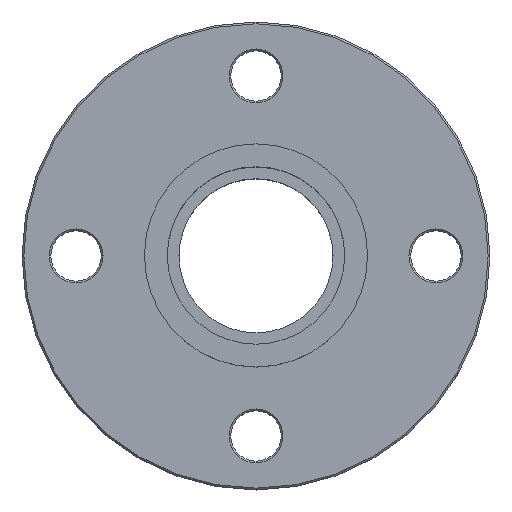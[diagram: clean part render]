
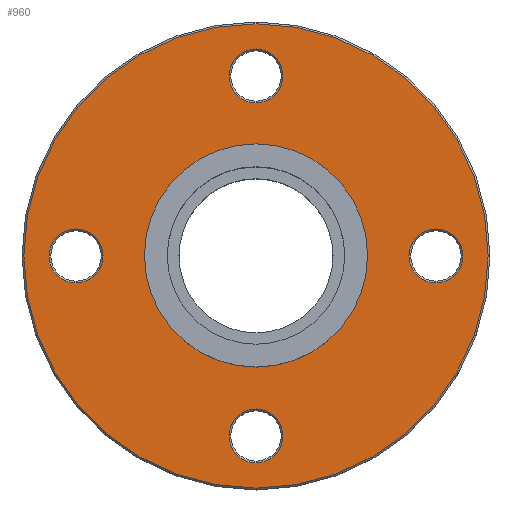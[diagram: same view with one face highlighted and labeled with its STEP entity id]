
A CAD part, top view. The second image highlights one B-rep face of the part: STEP entity #960.
In plain terms, the highlighted planar face has unit normal (0, 0, 1) as drawn and (0, 0, -1) by its records, which use the part's own axes.
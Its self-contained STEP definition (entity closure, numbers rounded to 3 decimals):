
#10=CARTESIAN_POINT('',(0.,0.,4.));
#20=DIRECTION('',(0.,0.,1.));
#30=DIRECTION('',(1.,0.,0.));
#40=AXIS2_PLACEMENT_3D('',#10,#20,#30);
#50=PLANE('',#40);
#60=CARTESIAN_POINT('',(110.,110.,4.));
#70=DIRECTION('',(0.,0.,-1.));
#80=DIRECTION('',(-0.,1.,0.));
#90=AXIS2_PLACEMENT_3D('',#60,#70,#80);
#100=CIRCLE('',#90,25.);
#110=CARTESIAN_POINT('',(110.,135.,4.));
#120=VERTEX_POINT('',#110);
#130=CARTESIAN_POINT('',(110.,85.,4.));
#140=VERTEX_POINT('',#130);
#150=EDGE_CURVE('',#120,#140,#100,.T.);
#160=ORIENTED_EDGE('',*,*,#150,.F.);
#170=EDGE_CURVE('',#140,#120,#100,.T.);
#180=ORIENTED_EDGE('',*,*,#170,.F.);
#190=EDGE_LOOP('',(#180,#160));
#200=FACE_BOUND('',#190,.T.);
#210=CARTESIAN_POINT('',(60.,110.,4.));
#220=DIRECTION('',(0.,0.,1.));
#230=DIRECTION('',(1.,0.,0.));
#240=AXIS2_PLACEMENT_3D('',#210,#220,#230);
#250=CIRCLE('',#240,7.5);
#260=CARTESIAN_POINT('',(67.5,110.,4.));
#270=VERTEX_POINT('',#260);
#280=CARTESIAN_POINT('',(52.5,110.,4.));
#290=VERTEX_POINT('',#280);
#300=EDGE_CURVE('',#270,#290,#250,.T.);
#310=ORIENTED_EDGE('',*,*,#300,.T.);
#320=EDGE_CURVE('',#290,#270,#250,.T.);
#330=ORIENTED_EDGE('',*,*,#320,.T.);
#340=EDGE_LOOP('',(#330,#310));
#350=FACE_BOUND('',#340,.T.);
#360=CARTESIAN_POINT('',(110.,160.,4.));
#370=DIRECTION('',(0.,0.,1.));
#380=DIRECTION('',(1.,0.,0.));
#390=AXIS2_PLACEMENT_3D('',#360,#370,#380);
#400=CIRCLE('',#390,7.5);
#410=CARTESIAN_POINT('',(117.5,160.,4.));
#420=VERTEX_POINT('',#410);
#430=CARTESIAN_POINT('',(102.5,160.,4.));
#440=VERTEX_POINT('',#430);
#450=EDGE_CURVE('',#420,#440,#400,.T.);
#460=ORIENTED_EDGE('',*,*,#450,.T.);
#470=EDGE_CURVE('',#440,#420,#400,.T.);
#480=ORIENTED_EDGE('',*,*,#470,.T.);
#490=EDGE_LOOP('',(#480,#460));
#500=FACE_BOUND('',#490,.T.);
#510=CARTESIAN_POINT('',(160.,110.,4.));
#520=DIRECTION('',(0.,0.,1.));
#530=DIRECTION('',(1.,0.,0.));
#540=AXIS2_PLACEMENT_3D('',#510,#520,#530);
#550=CIRCLE('',#540,7.5);
#560=CARTESIAN_POINT('',(167.5,110.,4.));
#570=VERTEX_POINT('',#560);
#580=CARTESIAN_POINT('',(152.5,110.,4.));
#590=VERTEX_POINT('',#580);
#600=EDGE_CURVE('',#570,#590,#550,.T.);
#610=ORIENTED_EDGE('',*,*,#600,.T.);
#620=EDGE_CURVE('',#590,#570,#550,.T.);
#630=ORIENTED_EDGE('',*,*,#620,.T.);
#640=EDGE_LOOP('',(#630,#610));
#650=FACE_BOUND('',#640,.T.);
#660=CARTESIAN_POINT('',(110.,60.,4.));
#670=DIRECTION('',(0.,0.,1.));
#680=DIRECTION('',(1.,0.,0.));
#690=AXIS2_PLACEMENT_3D('',#660,#670,#680);
#700=CIRCLE('',#690,7.5);
#710=CARTESIAN_POINT('',(117.5,60.,4.));
#720=VERTEX_POINT('',#710);
#730=CARTESIAN_POINT('',(102.5,60.,4.));
#740=VERTEX_POINT('',#730);
#750=EDGE_CURVE('',#720,#740,#700,.T.);
#760=ORIENTED_EDGE('',*,*,#750,.T.);
#770=EDGE_CURVE('',#740,#720,#700,.T.);
#780=ORIENTED_EDGE('',*,*,#770,.T.);
#790=EDGE_LOOP('',(#780,#760));
#800=FACE_BOUND('',#790,.T.);
#810=CARTESIAN_POINT('',(110.,110.,4.));
#820=DIRECTION('',(0.,0.,1.));
#830=DIRECTION('',(1.,0.,0.));
#840=AXIS2_PLACEMENT_3D('',#810,#820,#830);
#850=CIRCLE('',#840,64.5);
#860=CARTESIAN_POINT('',(174.5,110.,4.));
#870=VERTEX_POINT('',#860);
#880=CARTESIAN_POINT('',(45.5,110.,4.));
#890=VERTEX_POINT('',#880);
#900=EDGE_CURVE('',#870,#890,#850,.T.);
#910=ORIENTED_EDGE('',*,*,#900,.F.);
#920=EDGE_CURVE('',#890,#870,#850,.T.);
#930=ORIENTED_EDGE('',*,*,#920,.F.);
#940=EDGE_LOOP('',(#930,#910));
#950=FACE_OUTER_BOUND('',#940,.T.);
#960=ADVANCED_FACE('',(#200,#350,#500,#650,#800,#950),#50,.F.);
